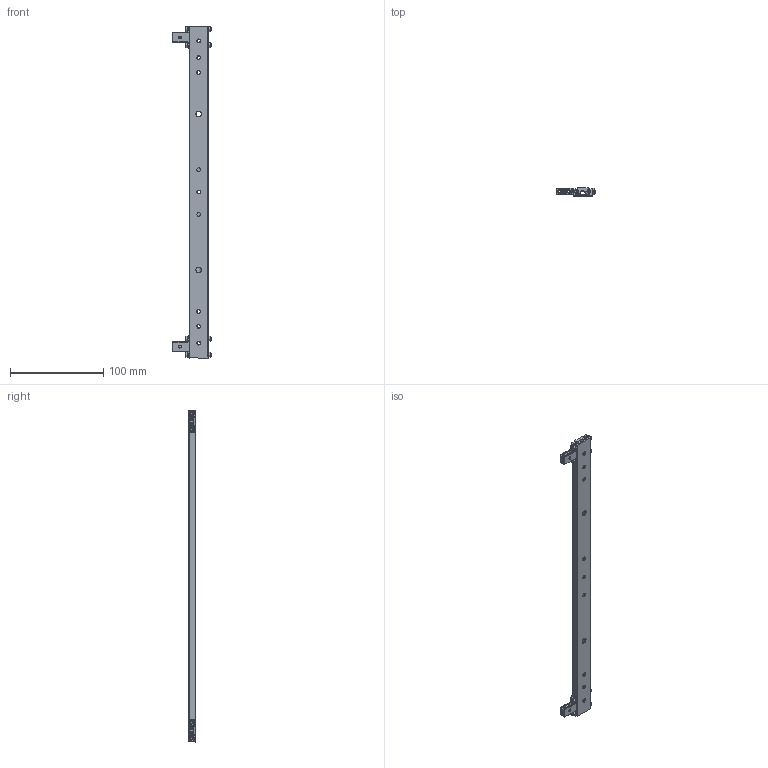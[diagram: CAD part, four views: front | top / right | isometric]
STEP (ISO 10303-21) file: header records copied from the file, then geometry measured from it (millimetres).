
FILE_DESCRIPTION( ('This file contains a STEP AP42 implementation' ,'as created by ZW3D STEP Interface translator.') ,'2;1' );
FILE_NAME( 'BL-350C-2M.stp' ,'231031.201336', (''), ('ZWCAD Software Co.'), 'Version 1.0', 'ZW3D to STEP translator', '' );
FILE_SCHEMA(('AUTOMOTIVE_DESIGN { 1 0 10303 214 1 1 1 1 }'));
Length unit declared in the file: millimetre
Products named in the file (13): 0; BL-350C-2M; InnerSlide350C; OuterSlide350C; StopperScrew; BallBearing; PulleyModule; VPulley; NoHeadScrew001; PulleyBracketV4; PulleyModule1; M3; M2
Assembly tree (64 placements, depth 3):
  0
  BL-350C-2M
    InnerSlide350C
    OuterSlide350C
    StopperScrew  x8
    BallBearing  x36
    PulleyModule
      VPulley
      NoHeadScrew001
      PulleyBracketV4
    PulleyModule1
      VPulley
      NoHeadScrew001
      PulleyBracketV4
    M3  x8
    M2  x2
Bounding box: 42.55 x 8.18 x 355.6 mm (x, y, z)
Volume: 39480.5 mm3; surface area: 46817.1 mm2
Topology: 68 solids, 70 shells, 1421 faces, 3697 edges, 2312 vertices
Faces by surface type: cylinder 597, cone 304, plane 237, bspline 190, sphere 72, torus 21
Full cylindrical faces by diameter (mm): 2 x33, 2.5 x16, 3 x104, 3.05 x4, 3.6 x63, 6 x3
Entity records: 40729 total; most frequent: CARTESIAN_POINT 27329, ORIENTED_EDGE 3092, DIRECTION 2021, EDGE_CURVE 1548, VERTEX_POINT 993, AXIS2_PLACEMENT_3D 777, EDGE_LOOP 644, FACE_OUTER_BOUND 572
